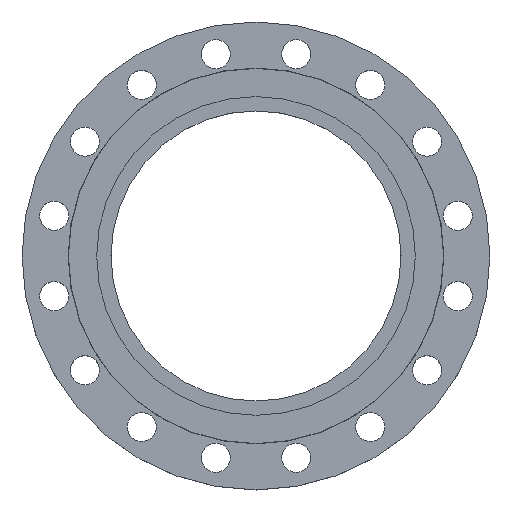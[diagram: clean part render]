
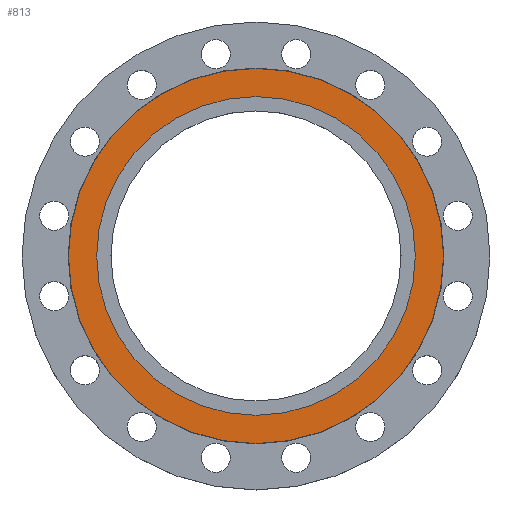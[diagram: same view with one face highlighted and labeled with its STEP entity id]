
A CAD part, top view. The second image highlights one B-rep face of the part: STEP entity #813.
In plain terms, the highlighted planar face has unit normal (0, 0, 1).
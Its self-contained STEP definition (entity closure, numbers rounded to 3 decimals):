
#1 = CIRCLE ( 'NONE', #3, 232.5 ) ;
#3 = AXIS2_PLACEMENT_3D ( 'NONE', #933, #931, #930 ) ;
#41 = AXIS2_PLACEMENT_3D ( 'NONE', #709, #708, #707 ) ;
#65 = AXIS2_PLACEMENT_3D ( 'NONE', #619, #617, #616 ) ;
#67 = CIRCLE ( 'NONE', #65, 232.5 ) ;
#78 = CARTESIAN_POINT ( 'NONE',  ( -197.5, 0., 0. ) ) ;
#205 = EDGE_CURVE ( 'NONE', #1240, #1292, #1, .T. ) ;
#231 = CIRCLE ( 'NONE', #41, 197.5 ) ;
#434 = CARTESIAN_POINT ( 'NONE',  ( 232.5, 0., 0. ) ) ;
#471 = CARTESIAN_POINT ( 'NONE',  ( -232.5, 0., 0. ) ) ;
#491 = DIRECTION ( 'NONE',  ( -1., 0., 0. ) ) ;
#493 = DIRECTION ( 'NONE',  ( 0., 0., -1. ) ) ;
#494 = CARTESIAN_POINT ( 'NONE',  ( 0., 0., 0. ) ) ;
#513 = CARTESIAN_POINT ( 'NONE',  ( 197.5, 0., 0. ) ) ;
#585 = AXIS2_PLACEMENT_3D ( 'NONE', #719, #718, #716 ) ;
#616 = DIRECTION ( 'NONE',  ( -1., 0., 0. ) ) ;
#617 = DIRECTION ( 'NONE',  ( 0., 0., -1. ) ) ;
#619 = CARTESIAN_POINT ( 'NONE',  ( 0., 0., 0. ) ) ;
#696 = EDGE_LOOP ( 'NONE', ( #1489, #1490 ) ) ;
#707 = DIRECTION ( 'NONE',  ( -1., 0., 0. ) ) ;
#708 = DIRECTION ( 'NONE',  ( 0., 0., -1. ) ) ;
#709 = CARTESIAN_POINT ( 'NONE',  ( 0., 0., 0. ) ) ;
#716 = DIRECTION ( 'NONE',  ( 1., 0., 0. ) ) ;
#718 = DIRECTION ( 'NONE',  ( 0., 0., 1. ) ) ;
#719 = CARTESIAN_POINT ( 'NONE',  ( 0., 0., 0. ) ) ;
#721 = PLANE ( 'NONE',  #585 ) ;
#723 = FACE_BOUND ( 'NONE', #1530, .T. ) ;
#724 = FACE_OUTER_BOUND ( 'NONE', #696, .T. ) ;
#813 = ADVANCED_FACE ( 'NONE', ( #724, #723 ), #721, .T. ) ;
#825 = EDGE_CURVE ( 'NONE', #1554, #1182, #231, .T. ) ;
#930 = DIRECTION ( 'NONE',  ( -1., 0., 0. ) ) ;
#931 = DIRECTION ( 'NONE',  ( 0., 0., -1. ) ) ;
#933 = CARTESIAN_POINT ( 'NONE',  ( 0., 0., 0. ) ) ;
#950 = AXIS2_PLACEMENT_3D ( 'NONE', #494, #493, #491 ) ;
#951 = CIRCLE ( 'NONE', #950, 197.5 ) ;
#1035 = EDGE_CURVE ( 'NONE', #1292, #1240, #67, .T. ) ;
#1182 = VERTEX_POINT ( 'NONE', #513 ) ;
#1217 = EDGE_CURVE ( 'NONE', #1182, #1554, #951, .T. ) ;
#1240 = VERTEX_POINT ( 'NONE', #471 ) ;
#1292 = VERTEX_POINT ( 'NONE', #434 ) ;
#1489 = ORIENTED_EDGE ( 'NONE', *, *, #205, .F. ) ;
#1490 = ORIENTED_EDGE ( 'NONE', *, *, #1035, .F. ) ;
#1491 = ORIENTED_EDGE ( 'NONE', *, *, #1217, .T. ) ;
#1498 = ORIENTED_EDGE ( 'NONE', *, *, #825, .T. ) ;
#1530 = EDGE_LOOP ( 'NONE', ( #1498, #1491 ) ) ;
#1554 = VERTEX_POINT ( 'NONE', #78 ) ;
